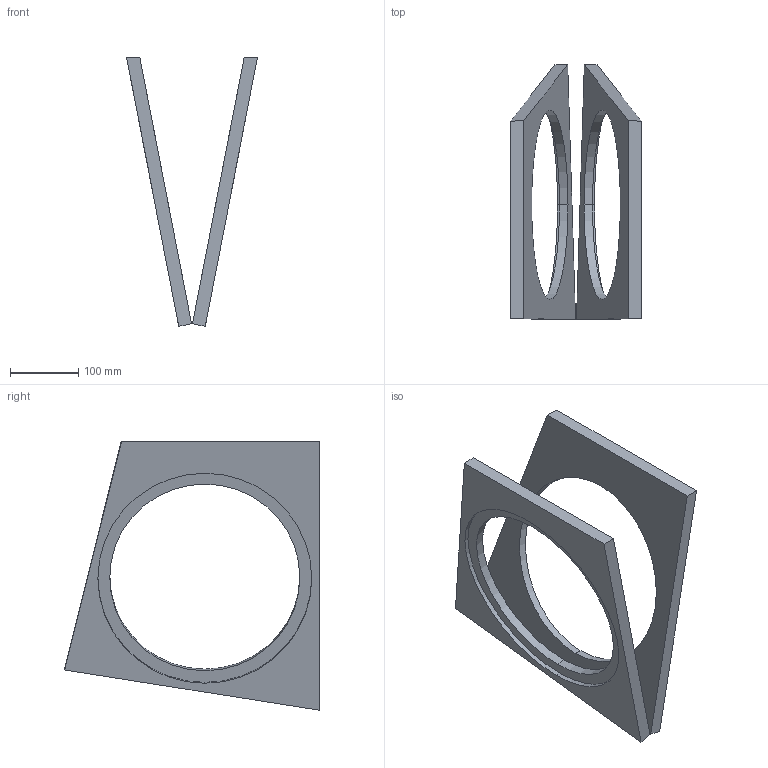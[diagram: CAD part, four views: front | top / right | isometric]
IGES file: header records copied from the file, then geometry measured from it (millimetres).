
Start section:  PTC IGES file: C:\Documents and Settings\Brad\Desktop\IGES\module_baffl e_plates.igs
Global section: file name: C:\Documents and Settings\Brad\Desktop\IGES\module_baffle_plates.igs; native system: Brad by Parametric Technology Corporation; preprocessor: 2003250; author: Unknown; organization: PTC; date: 040521.142625; units: inch
Bounding box: 192.19 x 373.94 x 394.53 mm (x, y, z)
Volume: 2189001.5 mm3; surface area: 340651.9 mm2
Topology: 2 solids, 2 shells, 22 faces, 48 edges, 32 vertices
Faces by surface type: bspline 14, revolution 8
